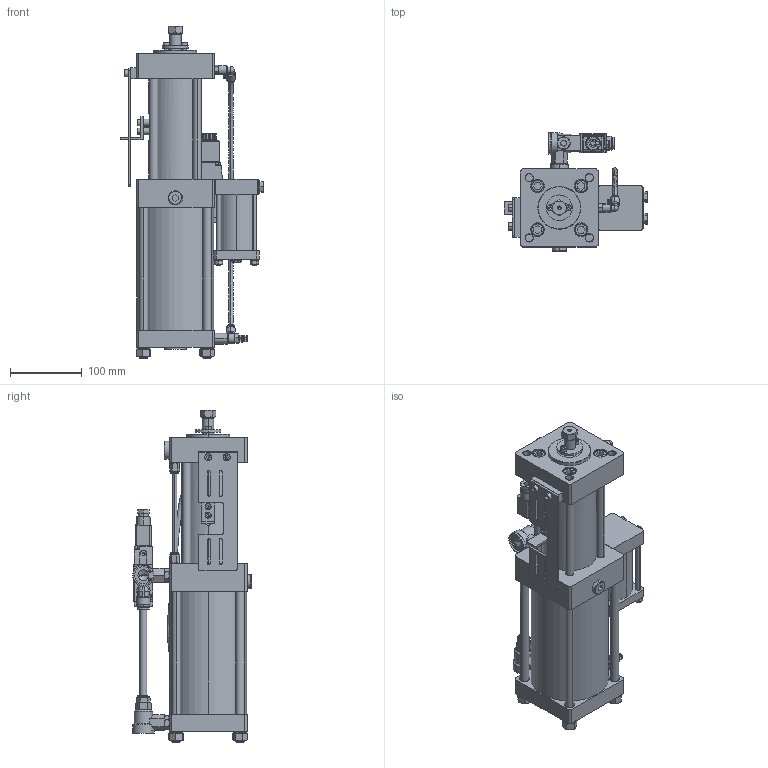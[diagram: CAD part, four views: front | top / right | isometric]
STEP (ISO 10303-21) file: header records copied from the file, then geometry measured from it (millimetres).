
FILE_DESCRIPTION (( 'STEP AP203' ), '1' );
FILE_NAME ('PCT3 10036 VC17.STEP', '2017-12-05T06:33:35', ( '' ), ( '' ), 'SwSTEP 2.0', 'SolidWorks 2015', '' );
FILE_SCHEMA (( 'CONFIG_CONTROL_DESIGN' ));
Length unit declared in the file: millimetre
Products named in the file (39): Part4^PCT; Janatics-Male elbow_Male threaded nipple_Dia 10 x 14; Janatics-Male connector_Collet cap_DIA 6; SILENCER; INT REC; spring lock washer 6735_is_IS 6735- 12; Janatics-Male elbow_Male elbow; 1 8 BSP PU 6_Janatics-Male connector_Male connector; CONTAINER PRA-03; GASKET; hexagon nut style 1_is_IS 1364-3 - M12-W-N; Part1^PCT; Part2^PCT; plain washer (type a)_is_IS 2016 A- 9; INT TUBE; PCT3 10036 VC17; 18Janatics-Male elbow_Male threaded nipple_Dia 6 x 18; Janatics-WN015152WN015152_WN015152; hexagon fit bolt_is_IS 3640 - M8 x 25 x 14.5-N; INT FEC; 18Janatics-Male elbow_elbow_DIA 6; Janatics-WN015151WN015151_WN015151; QEV; INT TR; 18Janatics-Male elbow_Collet cap_DIA 6; DC VALVE-Janatics-DEFAULT_DS255SR61; (normal) internal_is_IS 3075(Part2) NI- 26; spring lock washer 6735_is_IS 6735- 6; PCT CYL_PCT3 10036 VC17; 1 8 BSP FCV-Janatics-GR2_GR1105006; Janatics-Male elbow_elbow_DIA 10; 1 4 BSP QEV; hexagon nut_is_IS 1363-2 - M6-N; socket head cap screw_is_IS 2269 - M5 x 8-N; Part3^PCT; Janatics-Male elbow_Collet cap_DIA 10; Janatics-Male connector_housing MC_WP2110650; 3 8 BSP PLUG; socket head cap screw_is_IS 2269 - M6 x 10-N
Assembly tree (69 placements, depth 3):
  PCT3 10036 VC17
    PCT CYL_PCT3 10036 VC17
    socket head cap screw_is_IS 2269 - M5 x 8-N  x4
    socket head cap screw_is_IS 2269 - M6 x 10-N  x2
    CONTAINER PRA-03
      INT REC
      GASKET  x2
      INT TUBE
      INT FEC
      INT TR  x4
      spring lock washer 6735_is_IS 6735- 6  x4
      hexagon nut_is_IS 1363-2 - M6-N  x4
      3 8 BSP PLUG
      SILENCER
    plain washer (type a)_is_IS 2016 A- 9  x2
    hexagon fit bolt_is_IS 3640 - M8 x 25 x 14.5-N  x2
    1 4 BSP QEV
      QEV
      (normal) internal_is_IS 3075(Part2) NI- 26
    QEV
    1 8 BSP PU 6_Janatics-Male connector_Male connector  x2
      Janatics-Male connector_housing MC_WP2110650
      Janatics-Male connector_Collet cap_DIA 6
    Part2^PCT
    Janatics-WN015152WN015152_WN015152  x2
    Janatics-WN015151WN015151_WN015151
    DC VALVE-Janatics-DEFAULT_DS255SR61
    (normal) internal_is_IS 3075(Part2) NI- 26
    Janatics-Male elbow_Male elbow
      Janatics-Male elbow_elbow_DIA 10
      Janatics-Male elbow_Collet cap_DIA 10
      Janatics-Male elbow_Male threaded nipple_Dia 10 x 14
    Janatics-Male elbow_Collet cap_DIA 10  x2
    Janatics-Male elbow_Male threaded nipple_Dia 10 x 14  x2
    Part1^PCT
    SILENCER  x2
    18Janatics-Male elbow_Male threaded nipple_Dia 6 x 18
    18Janatics-Male elbow_elbow_DIA 6
    18Janatics-Male elbow_Collet cap_DIA 6
    1 8 BSP FCV-Janatics-GR2_GR1105006
    Part4^PCT
    spring lock washer 6735_is_IS 6735- 12  x4
    hexagon nut style 1_is_IS 1364-3 - M12-W-N  x4
  Part3^PCT
Bounding box: 200.6 x 166 x 464 mm (x, y, z)
Volume: 3890826.1 mm3; surface area: 540321.6 mm2
Topology: 87 solids, 88 shells, 4349 faces, 10948 edges, 6919 vertices
Faces by surface type: plane 1938, cylinder 1342, cone 732, torus 177, bspline 145, sphere 15
Entity records: 107530 total; most frequent: CARTESIAN_POINT 25769, ORIENTED_EDGE 16104, DIRECTION 15987, EDGE_CURVE 8052, AXIS2_PLACEMENT_3D 5844, VERTEX_POINT 5148, VECTOR 4299, LINE 4299
